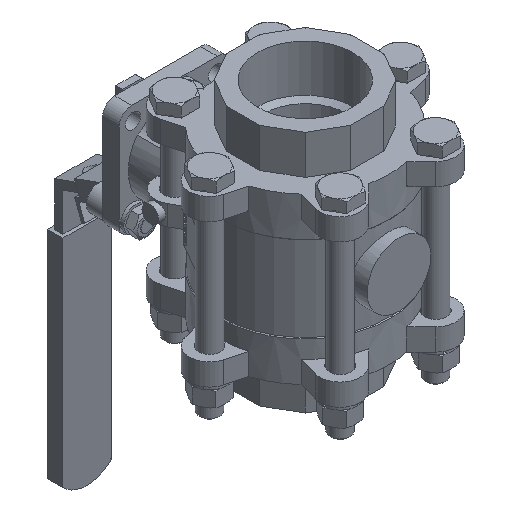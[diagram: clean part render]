
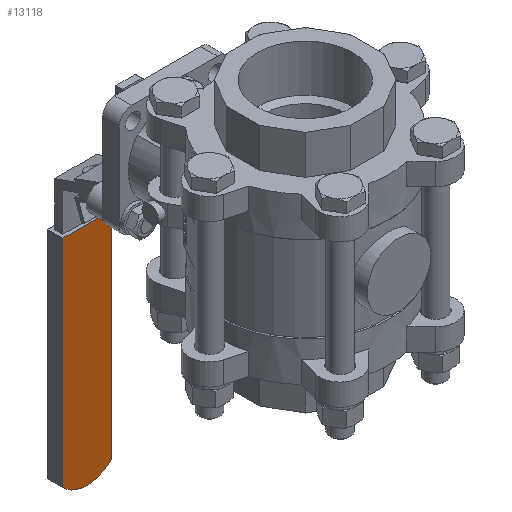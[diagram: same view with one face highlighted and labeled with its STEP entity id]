
A CAD part, isometric view. The second image highlights one B-rep face of the part: STEP entity #13118.
In plain terms, the highlighted planar face has unit normal (0, -1, 0).
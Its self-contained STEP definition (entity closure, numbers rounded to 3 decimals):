
#617=PLANE('',#14035);
#1339=FACE_OUTER_BOUND('',#2093,.T.);
#2093=EDGE_LOOP('',(#9630,#9631,#9632,#9633));
#2910=CIRCLE('',#14033,20.);
#3622=LINE('',#19752,#4715);
#3624=LINE('',#19756,#4717);
#3625=LINE('',#19757,#4718);
#4715=VECTOR('',#15932,10.);
#4717=VECTOR('',#15936,10.);
#4718=VECTOR('',#15937,10.);
#5872=VERTEX_POINT('',#19745);
#5873=VERTEX_POINT('',#19746);
#5874=VERTEX_POINT('',#19751);
#5875=VERTEX_POINT('',#19755);
#7301=EDGE_CURVE('',#5872,#5873,#2910,.T.);
#7304=EDGE_CURVE('',#5874,#5872,#3622,.T.);
#7306=EDGE_CURVE('',#5875,#5873,#3624,.T.);
#7307=EDGE_CURVE('',#5874,#5875,#3625,.T.);
#9630=ORIENTED_EDGE('',*,*,#7301,.T.);
#9631=ORIENTED_EDGE('',*,*,#7306,.F.);
#9632=ORIENTED_EDGE('',*,*,#7307,.F.);
#9633=ORIENTED_EDGE('',*,*,#7304,.T.);
#13118=ADVANCED_FACE('',(#1339),#617,.T.);
#14033=AXIS2_PLACEMENT_3D('',#19747,#15926,#15927);
#14035=AXIS2_PLACEMENT_3D('',#19754,#15934,#15935);
#15926=DIRECTION('center_axis',(0.,-1.,0.));
#15927=DIRECTION('ref_axis',(0.725,0.,-0.689));
#15932=DIRECTION('',(0.,0.,-1.));
#15934=DIRECTION('center_axis',(0.,-1.,0.));
#15935=DIRECTION('ref_axis',(-1.,0.,0.));
#15936=DIRECTION('',(0.,0.,-1.));
#15937=DIRECTION('',(1.,0.,0.));
#19745=CARTESIAN_POINT('',(-27.6,137.199,-195.775));
#19746=CARTESIAN_POINT('',(1.4,137.199,-195.775));
#19747=CARTESIAN_POINT('Origin',(-13.1,137.199,-182.));
#19751=CARTESIAN_POINT('',(-27.6,137.199,-67.));
#19752=CARTESIAN_POINT('',(-27.6,137.199,-67.));
#19754=CARTESIAN_POINT('Origin',(1.4,137.199,-67.));
#19755=CARTESIAN_POINT('',(1.4,137.199,-67.));
#19756=CARTESIAN_POINT('',(1.4,137.199,-67.));
#19757=CARTESIAN_POINT('',(-27.6,137.199,-67.));
